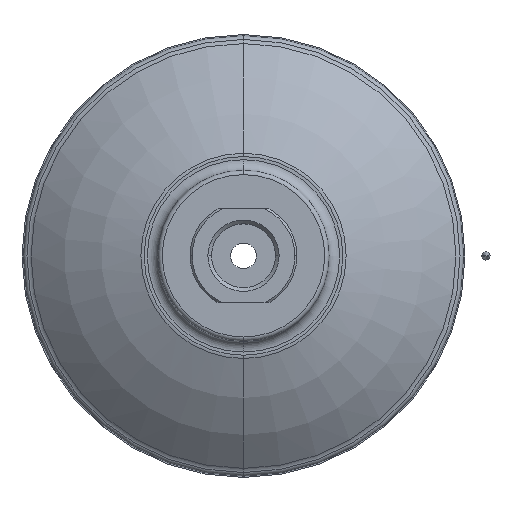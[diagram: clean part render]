
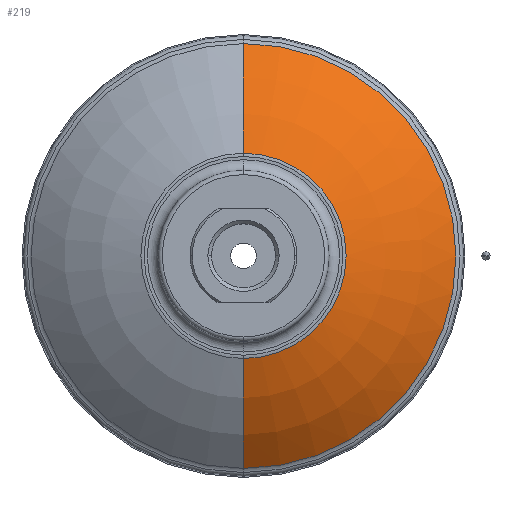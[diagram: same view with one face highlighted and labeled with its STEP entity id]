
A CAD part, top view. The second image highlights one B-rep face of the part: STEP entity #219.
In plain terms, the highlighted toroidal (fillet/blend) face has major radius 2.7 mm and minor radius 70 mm.
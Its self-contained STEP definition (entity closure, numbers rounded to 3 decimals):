
#219=ADVANCED_FACE('',(#516),#517,.T.);
#516=FACE_OUTER_BOUND('',#900,.T.);
#517=TOROIDAL_SURFACE('',#901,2.7,70.);
#900=EDGE_LOOP('',(#1487,#1488,#1489,#1490));
#901=AXIS2_PLACEMENT_3D('',#1491,#1492,#1493);
#1487=ORIENTED_EDGE('',*,*,#2417,.F.);
#1488=ORIENTED_EDGE('',*,*,#2418,.T.);
#1489=ORIENTED_EDGE('',*,*,#2419,.F.);
#1490=ORIENTED_EDGE('',*,*,#2420,.F.);
#1491=CARTESIAN_POINT('',(0.0,0.,-49.));
#1492=DIRECTION('',(0.0,0.,-1.0));
#1493=DIRECTION('',(0.0,1.0,0.));
#2417=EDGE_CURVE('',#2937,#2932,#2938,.T.);
#2418=EDGE_CURVE('',#2937,#2939,#2940,.T.);
#2419=EDGE_CURVE('',#2930,#2939,#2941,.T.);
#2420=EDGE_CURVE('',#2932,#2930,#2942,.T.);
#2930=VERTEX_POINT('',#3564);
#2932=VERTEX_POINT('',#3566);
#2937=VERTEX_POINT('',#3571);
#2938=CIRCLE('',#3572,70.);
#2939=VERTEX_POINT('',#3573);
#2940=CIRCLE('',#3574,23.997);
#2941=CIRCLE('',#3575,70.);
#2942=CIRCLE('',#3576,49.681);
#3564=CARTESIAN_POINT('',(0.,-49.681,2.892));
#3566=CARTESIAN_POINT('',(0.,49.681,2.892));
#3571=CARTESIAN_POINT('',(0.,23.997,17.681));
#3572=AXIS2_PLACEMENT_3D('',#4304,#4305,#4306);
#3573=CARTESIAN_POINT('',(0.,-23.997,17.681));
#3574=AXIS2_PLACEMENT_3D('',#4307,#4308,#4309);
#3575=AXIS2_PLACEMENT_3D('',#4310,#4311,#4312);
#3576=AXIS2_PLACEMENT_3D('',#4313,#4314,#4315);
#4304=CARTESIAN_POINT('',(0.,2.7,-49.));
#4305=DIRECTION('',(-1.0,0.,0.));
#4306=DIRECTION('',(0.,1.0,0.));
#4307=CARTESIAN_POINT('',(0.0,0.,17.681));
#4308=DIRECTION('',(0.0,0.,-1.0));
#4309=DIRECTION('',(1.0,0.0,0.0));
#4310=CARTESIAN_POINT('',(0.,-2.7,-49.));
#4311=DIRECTION('',(-1.0,0.,0.));
#4312=DIRECTION('',(0.,-1.0,0.));
#4313=CARTESIAN_POINT('',(0.0,0.,2.892));
#4314=DIRECTION('',(0.0,0.,-1.0));
#4315=DIRECTION('',(1.0,0.0,0.0));
